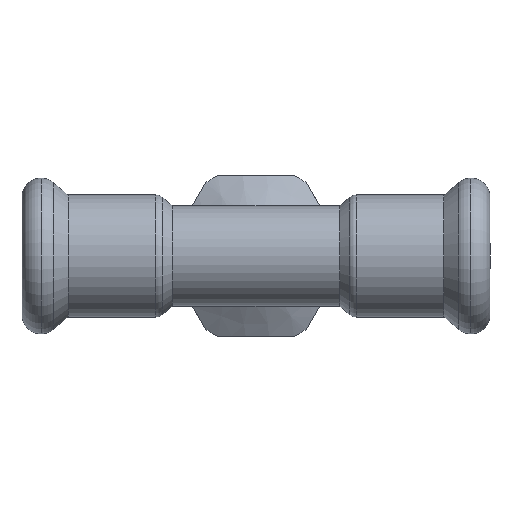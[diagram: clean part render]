
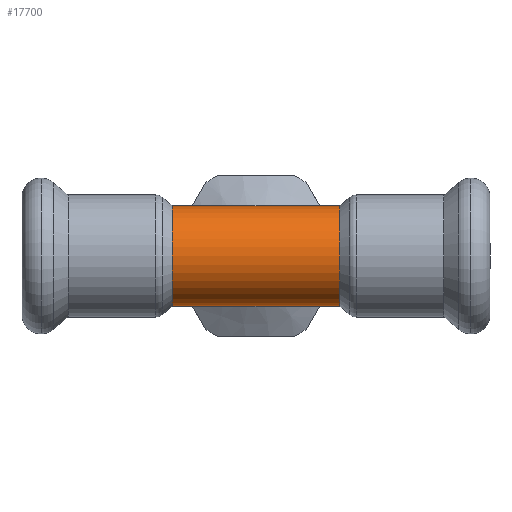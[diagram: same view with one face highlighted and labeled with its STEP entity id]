
A CAD part, front view. The second image highlights one B-rep face of the part: STEP entity #17700.
In plain terms, the highlighted cylindrical face has radius 7.5 mm (diameter 15 mm), a partial arc.
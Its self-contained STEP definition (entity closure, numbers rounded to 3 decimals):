
#2850=CARTESIAN_POINT('',(-103.693,19.909,
0.));
#2860=VERTEX_POINT('',#2850);
#2940=CARTESIAN_POINT('',(-88.693,19.909,
0.));
#2950=VERTEX_POINT('',#2940);
#8640=CARTESIAN_POINT('',(-88.693,19.909,
-12.5));
#8650=VERTEX_POINT('',#8640);
#8830=CARTESIAN_POINT('',(-103.693,19.909,
-12.5));
#8840=VERTEX_POINT('',#8830);
#8870=CARTESIAN_POINT('',(-96.193,19.909,
-12.5));
#8880=DIRECTION('',(0.,0.,-1.));
#8890=DIRECTION('',(-1.,0.,0.));
#8900=AXIS2_PLACEMENT_3D('',#8870,#8880,#8890);
#8910=CIRCLE('',#8900,7.5);
#8920=EDGE_CURVE('',#8650,#8840,#8910,.T.);
#12160=CARTESIAN_POINT('',(-103.693,19.909,
12.5));
#12170=VERTEX_POINT('',#12160);
#12350=CARTESIAN_POINT('',(-88.693,19.909,
12.5));
#12360=VERTEX_POINT('',#12350);
#12390=CARTESIAN_POINT('',(-96.193,19.909,
12.5));
#12400=DIRECTION('',(0.,0.,-1.));
#12410=DIRECTION('',(-1.,0.,0.));
#12420=AXIS2_PLACEMENT_3D('',#12390,#12400,#12410);
#12430=CIRCLE('',#12420,7.5);
#12440=EDGE_CURVE('',#12360,#12170,#12430,.T.);
#17450=CARTESIAN_POINT('',(-96.193,19.909,
-12.5));
#17460=DIRECTION('',(0.,0.,-1.));
#17470=DIRECTION('',(-1.,0.,0.));
#17480=AXIS2_PLACEMENT_3D('',#17450,#17460,#17470);
#17490=CYLINDRICAL_SURFACE('',#17480,7.5);
#17500=CARTESIAN_POINT('',(-88.693,19.909,
-12.5));
#17510=DIRECTION('',(0.,0.,-1.));
#17520=VECTOR('',#17510,1.);
#17530=LINE('',#17500,#17520);
#17540=EDGE_CURVE('',#12360,#2950,#17530,.T.);
#17550=ORIENTED_EDGE('',*,*,#17540,.F.);
#17560=EDGE_CURVE('',#2950,#8650,#17530,.T.);
#17570=ORIENTED_EDGE('',*,*,#17560,.F.);
#17580=ORIENTED_EDGE('',*,*,#8920,.F.);
#17590=CARTESIAN_POINT('',(-103.693,19.909,
-12.5));
#17600=DIRECTION('',(0.,0.,-1.));
#17610=VECTOR('',#17600,1.);
#17620=LINE('',#17590,#17610);
#17630=EDGE_CURVE('',#2860,#8840,#17620,.T.);
#17640=ORIENTED_EDGE('',*,*,#17630,.T.);
#17650=EDGE_CURVE('',#12170,#2860,#17620,.T.);
#17660=ORIENTED_EDGE('',*,*,#17650,.T.);
#17670=ORIENTED_EDGE('',*,*,#12440,.T.);
#17680=EDGE_LOOP('',(#17670,#17660,#17640,#17580,#17570,#17550));
#17690=FACE_OUTER_BOUND('',#17680,.T.);
#17700=ADVANCED_FACE('',(#17690),#17490,.T.);
